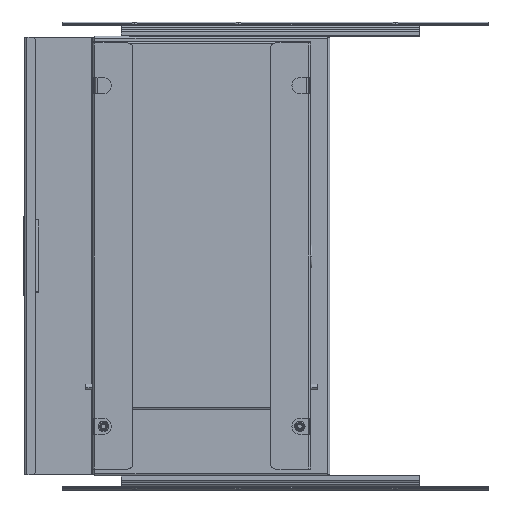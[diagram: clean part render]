
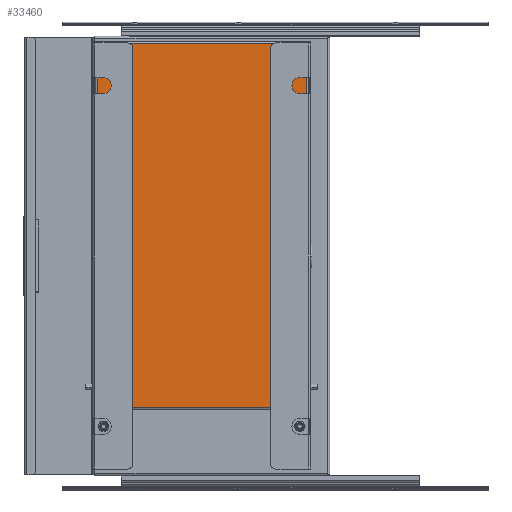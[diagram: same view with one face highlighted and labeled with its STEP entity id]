
A CAD part, left-side view. The second image highlights one B-rep face of the part: STEP entity #33460.
In plain terms, the highlighted planar face has unit normal (-1, 0, 0) as drawn and (0.707, 0, 0.707) by its records, which use the part's own axes.
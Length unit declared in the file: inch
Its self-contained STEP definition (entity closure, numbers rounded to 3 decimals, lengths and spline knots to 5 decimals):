
#30428=DIRECTION('',(0.,-1.,0.));
#30429=VECTOR('',#30428,0.2793);
#30430=CARTESIAN_POINT('',(10.51715,10.56845,10.60934));
#30431=LINE('',#30430,#30429);
#30435=DIRECTION('',(0.707,0.,-0.707));
#30436=VECTOR('',#30435,13.49928);
#30437=CARTESIAN_POINT('',(10.51715,10.56845,10.60934));
#30438=LINE('',#30437,#30436);
#30442=DIRECTION('',(0.,1.,0.));
#30443=VECTOR('',#30442,0.02);
#30444=CARTESIAN_POINT('',(20.06258,10.54845,1.06391));
#30445=LINE('',#30444,#30443);
#30449=DIRECTION('',(-0.707,0.,0.707));
#30450=VECTOR('',#30449,0.02972);
#30451=CARTESIAN_POINT('',(20.0836,10.54845,1.0429));
#30452=LINE('',#30451,#30450);
#30456=DIRECTION('',(0.707,0.,-0.707));
#30457=VECTOR('',#30456,0.02972);
#30458=CARTESIAN_POINT('',(20.06258,0.78045,1.06391));
#30459=LINE('',#30458,#30457);
#30463=DIRECTION('',(0.,1.,0.));
#30464=VECTOR('',#30463,0.02);
#30465=CARTESIAN_POINT('',(20.06258,0.76045,1.06391));
#30466=LINE('',#30465,#30464);
#30470=DIRECTION('',(0.707,0.,-0.707));
#30471=VECTOR('',#30470,13.49928);
#30472=CARTESIAN_POINT('',(10.51715,0.76045,10.60934));
#30473=LINE('',#30472,#30471);
#30477=DIRECTION('',(0.,1.,0.));
#30478=VECTOR('',#30477,0.2793);
#30479=CARTESIAN_POINT('',(10.51715,0.76045,10.60934));
#30480=LINE('',#30479,#30478);
#30484=CARTESIAN_POINT('',(10.25198,1.03975,10.87451));
#30485=DIRECTION('',(0.707,0.,0.707));
#30486=DIRECTION('',(0.707,0.,-0.707));
#30487=AXIS2_PLACEMENT_3D('',#30484,#30485,#30486);
#30492=DIRECTION('',(0.,1.,0.));
#30493=VECTOR('',#30492,0.2793);
#30494=CARTESIAN_POINT('',(9.98682,0.76045,11.13967));
#30495=LINE('',#30494,#30493);
#30499=DIRECTION('',(0.707,0.,-0.707));
#30500=VECTOR('',#30499,2.779);
#30501=CARTESIAN_POINT('',(8.02177,0.76045,13.10472));
#30502=LINE('',#30501,#30500);
#30506=DIRECTION('',(0.,1.,0.));
#30507=VECTOR('',#30506,9.808);
#30508=CARTESIAN_POINT('',(8.02177,0.76045,13.10472));
#30509=LINE('',#30508,#30507);
#30513=DIRECTION('',(0.707,0.,-0.707));
#30514=VECTOR('',#30513,2.779);
#30515=CARTESIAN_POINT('',(8.02177,10.56845,13.10472));
#30516=LINE('',#30515,#30514);
#30520=DIRECTION('',(0.,-1.,0.));
#30521=VECTOR('',#30520,0.2793);
#30522=CARTESIAN_POINT('',(9.98682,10.56845,11.13967));
#30523=LINE('',#30522,#30521);
#30527=CARTESIAN_POINT('',(10.25198,10.28915,10.87451));
#30528=DIRECTION('',(0.707,0.,0.707));
#30529=DIRECTION('',(-0.707,0.,0.707));
#30530=AXIS2_PLACEMENT_3D('',#30527,#30528,#30529);
#32358=DIRECTION('',(0.,1.,0.));
#32359=VECTOR('',#32358,9.768);
#32360=CARTESIAN_POINT('',(20.0836,0.78045,1.0429));
#32361=LINE('',#32360,#32359);
#32756=CARTESIAN_POINT('',(20.06258,0.78045,1.06391));
#32758=VERTEX_POINT('',#32756);
#32760=CARTESIAN_POINT('',(20.06258,10.54845,1.06391));
#32761=CARTESIAN_POINT('',(20.06258,10.56845,1.06391));
#32762=VERTEX_POINT('',#32760);
#32763=VERTEX_POINT('',#32761);
#32777=CARTESIAN_POINT('',(20.06258,0.76045,1.06391));
#32779=VERTEX_POINT('',#32777);
#32796=CARTESIAN_POINT('',(8.02177,0.76045,13.10472));
#32797=CARTESIAN_POINT('',(8.02177,10.56845,13.10472));
#32798=VERTEX_POINT('',#32796);
#32799=VERTEX_POINT('',#32797);
#32812=CARTESIAN_POINT('',(20.0836,0.78045,1.0429));
#32813=VERTEX_POINT('',#32812);
#32814=CARTESIAN_POINT('',(20.0836,10.54845,1.0429));
#32815=VERTEX_POINT('',#32814);
#32964=CARTESIAN_POINT('',(10.51715,10.56845,10.60934));
#32966=VERTEX_POINT('',#32964);
#32968=CARTESIAN_POINT('',(9.98682,10.56845,11.13967));
#32970=VERTEX_POINT('',#32968);
#32972=CARTESIAN_POINT('',(9.98682,0.76045,11.13967));
#32974=VERTEX_POINT('',#32972);
#32976=CARTESIAN_POINT('',(10.51715,0.76045,10.60934));
#32978=VERTEX_POINT('',#32976);
#32980=CARTESIAN_POINT('',(10.51715,10.28915,10.60934));
#32981=VERTEX_POINT('',#32980);
#32982=CARTESIAN_POINT('',(9.98682,10.28915,11.13967));
#32983=VERTEX_POINT('',#32982);
#32984=CARTESIAN_POINT('',(9.98682,1.03975,11.13967));
#32985=VERTEX_POINT('',#32984);
#32986=CARTESIAN_POINT('',(10.51715,1.03975,10.60934));
#32987=VERTEX_POINT('',#32986);
#33422=CARTESIAN_POINT('',(7.48405,0.,13.64244));
#33423=DIRECTION('',(0.707,0.,0.707));
#33424=DIRECTION('',(0.707,0.,-0.707));
#33425=AXIS2_PLACEMENT_3D('',#33422,#33423,#33424);
#33426=PLANE('',#33425);
#33428=ORIENTED_EDGE('',*,*,#33427,.F.);
#33430=ORIENTED_EDGE('',*,*,#33429,.T.);
#33432=ORIENTED_EDGE('',*,*,#33431,.F.);
#33433=ORIENTED_EDGE('',*,*,#33413,.F.);
#33435=ORIENTED_EDGE('',*,*,#33434,.F.);
#33437=ORIENTED_EDGE('',*,*,#33436,.F.);
#33439=ORIENTED_EDGE('',*,*,#33438,.F.);
#33441=ORIENTED_EDGE('',*,*,#33440,.F.);
#33443=ORIENTED_EDGE('',*,*,#33442,.T.);
#33445=ORIENTED_EDGE('',*,*,#33444,.T.);
#33447=ORIENTED_EDGE('',*,*,#33446,.F.);
#33449=ORIENTED_EDGE('',*,*,#33448,.F.);
#33451=ORIENTED_EDGE('',*,*,#33450,.T.);
#33453=ORIENTED_EDGE('',*,*,#33452,.T.);
#33455=ORIENTED_EDGE('',*,*,#33454,.T.);
#33457=ORIENTED_EDGE('',*,*,#33456,.T.);
#33458=EDGE_LOOP('',(#33428,#33430,#33432,#33433,#33435,#33437,#33439,#33441,
#33443,#33445,#33447,#33449,#33451,#33453,#33455,#33457));
#33459=FACE_OUTER_BOUND('',#33458,.F.);
#30488=CIRCLE('',#30487,0.375);
#30531=CIRCLE('',#30530,0.375);
#33413=EDGE_CURVE('',#32815,#32762,#30452,.T.);
#33427=EDGE_CURVE('',#32966,#32981,#30431,.T.);
#33429=EDGE_CURVE('',#32966,#32763,#30438,.T.);
#33431=EDGE_CURVE('',#32762,#32763,#30445,.T.);
#33434=EDGE_CURVE('',#32813,#32815,#32361,.T.);
#33436=EDGE_CURVE('',#32758,#32813,#30459,.T.);
#33438=EDGE_CURVE('',#32779,#32758,#30466,.T.);
#33440=EDGE_CURVE('',#32978,#32779,#30473,.T.);
#33442=EDGE_CURVE('',#32978,#32987,#30480,.T.);
#33444=EDGE_CURVE('',#32987,#32985,#30488,.T.);
#33446=EDGE_CURVE('',#32974,#32985,#30495,.T.);
#33448=EDGE_CURVE('',#32798,#32974,#30502,.T.);
#33450=EDGE_CURVE('',#32798,#32799,#30509,.T.);
#33452=EDGE_CURVE('',#32799,#32970,#30516,.T.);
#33454=EDGE_CURVE('',#32970,#32983,#30523,.T.);
#33456=EDGE_CURVE('',#32983,#32981,#30531,.T.);
#33460=ADVANCED_FACE('',(#33459),#33426,.T.);
